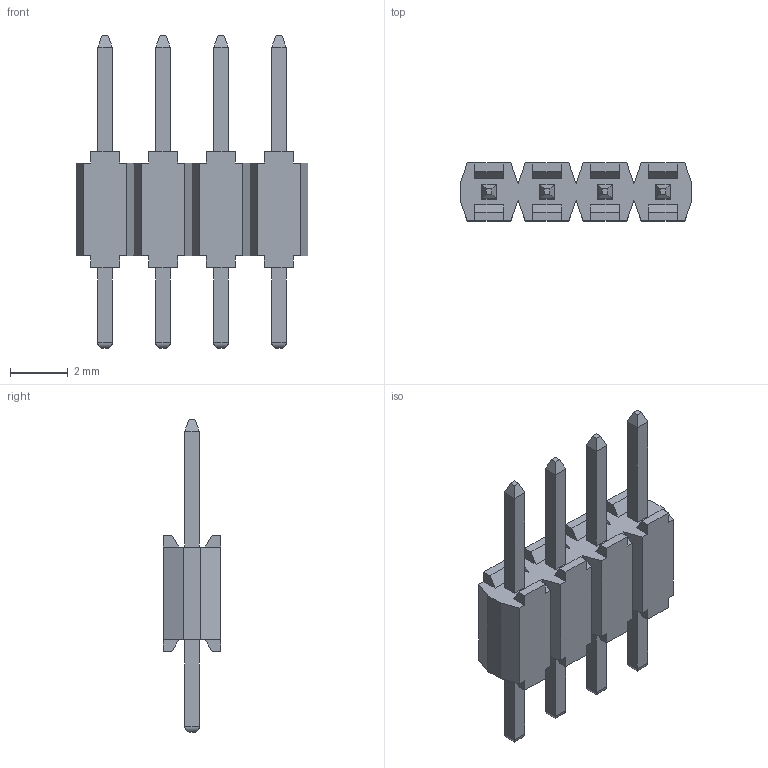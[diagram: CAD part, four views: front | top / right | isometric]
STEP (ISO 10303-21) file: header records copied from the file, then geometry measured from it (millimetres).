
FILE_DESCRIPTION(/* description */ (''),/* implementation_level */ '2;1');
FILE_NAME(/* name */ '951404-9010806-AR',/* time_stamp */ '2007-03-14T13:19:32+01:00',/* author */ (''),/* organization */ (''),/* preprocessor_version */ 'ST-DEVELOPER v9',/* originating_system */ 'UGS - NX 4.0',/* authorisation */ '');
FILE_SCHEMA (('AUTOMOTIVE_DESIGN { 1 0 10303 214 1 1 1 1 }'));
Length unit declared in the file: millimetre
Products named in the file (1): 951404-9010806-AR
Bounding box: 8 x 2 x 10.8 mm (x, y, z)
Volume: 56.8 mm3; surface area: 183.3 mm2
Topology: 1 solids, 1 shells, 164 faces, 430 edges, 276 vertices
Faces by surface type: plane 148, cylinder 16
Entity records: 4938 total; most frequent: CARTESIAN_POINT 871, ORIENTED_EDGE 860, DIRECTION 776, EDGE_CURVE 430, LINE 414, VECTOR 414, VERTEX_POINT 276, AXIS2_PLACEMENT_3D 181
